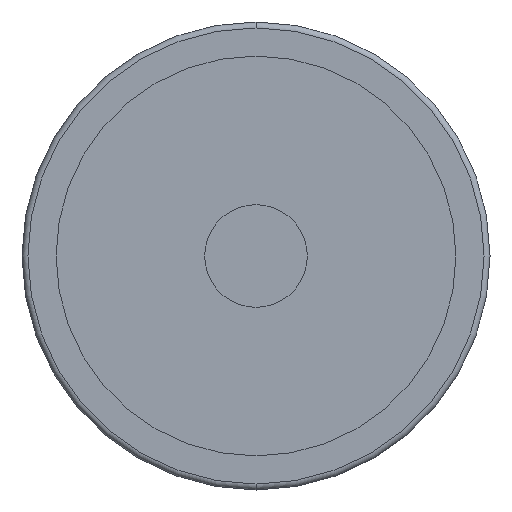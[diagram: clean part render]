
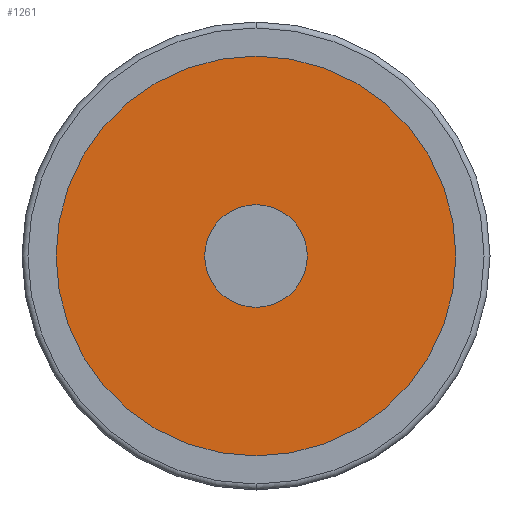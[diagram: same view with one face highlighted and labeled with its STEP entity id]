
A CAD part, front view. The second image highlights one B-rep face of the part: STEP entity #1261.
In plain terms, the highlighted planar face has unit normal (0, -1, 0).
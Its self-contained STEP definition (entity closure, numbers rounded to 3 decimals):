
#15 = DIRECTION ( 'NONE',  ( 0., -1., 0. ) ) ;
#108 = CIRCLE ( 'NONE', #2177, 8. ) ;
#234 = ORIENTED_EDGE ( 'NONE', *, *, #1714, .F. ) ;
#315 = CARTESIAN_POINT ( 'NONE',  ( 0., 4.5, 0. ) ) ;
#377 = VERTEX_POINT ( 'NONE', #1410 ) ;
#486 = CARTESIAN_POINT ( 'NONE',  ( -34.25, 4.5, 0. ) ) ;
#489 = EDGE_CURVE ( 'NONE', #510, #377, #1607, .T. ) ;
#510 = VERTEX_POINT ( 'NONE', #546 ) ;
#521 = DIRECTION ( 'NONE',  ( 1., 0., 0. ) ) ;
#546 = CARTESIAN_POINT ( 'NONE',  ( -8., 4.5, 0. ) ) ;
#555 = AXIS2_PLACEMENT_3D ( 'NONE', #486, #1461, #1591 ) ;
#561 = ORIENTED_EDGE ( 'NONE', *, *, #2096, .T. ) ;
#683 = CARTESIAN_POINT ( 'NONE',  ( 0., 4.5, 0. ) ) ;
#693 = CARTESIAN_POINT ( 'NONE',  ( 34.25, 4.5, 0. ) ) ;
#709 = FACE_OUTER_BOUND ( 'NONE', #1378, .T. ) ;
#780 = CIRCLE ( 'NONE', #1727, 34.25 ) ;
#782 = CIRCLE ( 'NONE', #2180, 34.25 ) ;
#881 = DIRECTION ( 'NONE',  ( 0., -1., 0. ) ) ;
#882 = EDGE_LOOP ( 'NONE', ( #234, #1390 ) ) ;
#1056 = DIRECTION ( 'NONE',  ( 1., 0., 0. ) ) ;
#1104 = DIRECTION ( 'NONE',  ( 0., -1., 0. ) ) ;
#1261 = ADVANCED_FACE ( 'NONE', ( #709, #2202 ), #2188, .T. ) ;
#1372 = DIRECTION ( 'NONE',  ( 0., -1., 0. ) ) ;
#1378 = EDGE_LOOP ( 'NONE', ( #1810, #561 ) ) ;
#1390 = ORIENTED_EDGE ( 'NONE', *, *, #489, .F. ) ;
#1410 = CARTESIAN_POINT ( 'NONE',  ( 8., 4.5, 0. ) ) ;
#1461 = DIRECTION ( 'NONE',  ( 0., -1., 0. ) ) ;
#1591 = DIRECTION ( 'NONE',  ( 1., 0., 0. ) ) ;
#1607 = CIRCLE ( 'NONE', #2003, 8. ) ;
#1684 = CARTESIAN_POINT ( 'NONE',  ( -34.25, 4.5, 0. ) ) ;
#1707 = DIRECTION ( 'NONE',  ( 1., 0., 0. ) ) ;
#1710 = EDGE_CURVE ( 'NONE', #1996, #1806, #780, .T. ) ;
#1714 = EDGE_CURVE ( 'NONE', #377, #510, #108, .T. ) ;
#1717 = DIRECTION ( 'NONE',  ( 1., 0., 0. ) ) ;
#1727 = AXIS2_PLACEMENT_3D ( 'NONE', #2298, #1372, #1717 ) ;
#1806 = VERTEX_POINT ( 'NONE', #693 ) ;
#1810 = ORIENTED_EDGE ( 'NONE', *, *, #1710, .T. ) ;
#1996 = VERTEX_POINT ( 'NONE', #1684 ) ;
#2003 = AXIS2_PLACEMENT_3D ( 'NONE', #683, #881, #521 ) ;
#2096 = EDGE_CURVE ( 'NONE', #1806, #1996, #782, .T. ) ;
#2177 = AXIS2_PLACEMENT_3D ( 'NONE', #2311, #15, #1707 ) ;
#2180 = AXIS2_PLACEMENT_3D ( 'NONE', #315, #1104, #1056 ) ;
#2188 = PLANE ( 'NONE',  #555 ) ;
#2202 = FACE_BOUND ( 'NONE', #882, .T. ) ;
#2298 = CARTESIAN_POINT ( 'NONE',  ( 0., 4.5, 0. ) ) ;
#2311 = CARTESIAN_POINT ( 'NONE',  ( 0., 4.5, 0. ) ) ;
